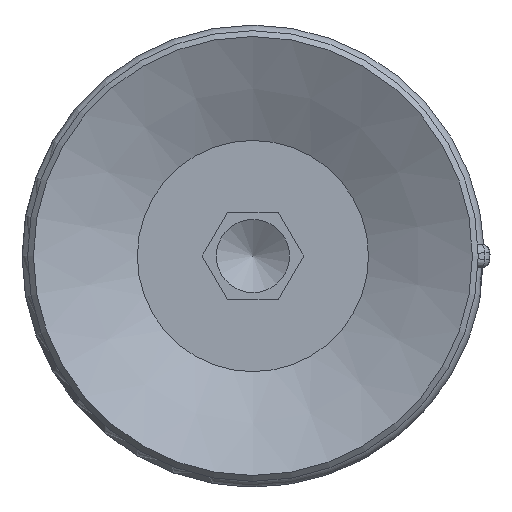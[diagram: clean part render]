
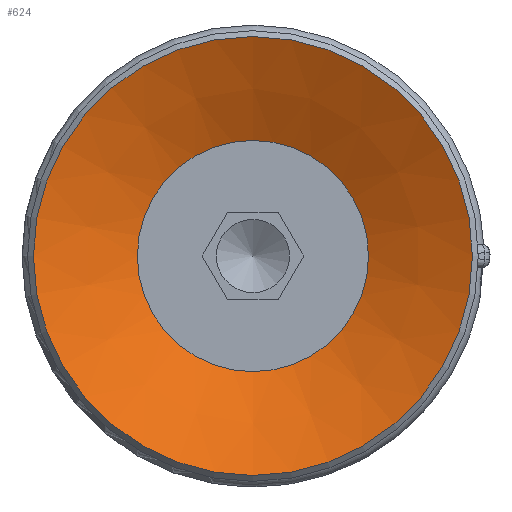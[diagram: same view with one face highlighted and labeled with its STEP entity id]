
A CAD part, front view. The second image highlights one B-rep face of the part: STEP entity #624.
In plain terms, the highlighted conical face has half-angle 64 degrees and reference radius 3.95 mm.
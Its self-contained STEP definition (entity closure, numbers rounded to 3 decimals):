
#624=ADVANCED_FACE('',(#946,#947),#948,.F.);
#946=FACE_BOUND('',#1455,.T.);
#947=FACE_OUTER_BOUND('',#1456,.T.);
#948=CONICAL_SURFACE('',#1457,3.95,1.117);
#1455=EDGE_LOOP('',(#2507));
#1456=EDGE_LOOP('',(#2508));
#1457=AXIS2_PLACEMENT_3D('',#2509,#2510,#2511);
#2507=ORIENTED_EDGE('',*,*,#3025,.F.);
#2508=ORIENTED_EDGE('',*,*,#2996,.T.);
#2509=CARTESIAN_POINT('',(0.0,-29.404,-47.168));
#2510=DIRECTION('',(-0.0,0.,1.0));
#2511=DIRECTION('',(0.0,-1.0,0.));
#2996=EDGE_CURVE('',#3394,#3394,#3395,.T.);
#3025=EDGE_CURVE('',#3440,#3440,#3441,.T.);
#3394=VERTEX_POINT('',#4436);
#3395=CIRCLE('',#4437,7.5);
#3440=VERTEX_POINT('',#4504);
#3441=CIRCLE('',#4505,3.95);
#4436=CARTESIAN_POINT('',(0.0,-36.904,-45.437));
#4437=AXIS2_PLACEMENT_3D('',#5220,#5221,#5222);
#4504=CARTESIAN_POINT('',(0.0,-33.354,-47.168));
#4505=AXIS2_PLACEMENT_3D('',#5292,#5293,#5294);
#5220=CARTESIAN_POINT('',(0.0,-29.404,-45.437));
#5221=DIRECTION('',(0.0,0.,1.0));
#5222=DIRECTION('',(0.0,-1.0,0.));
#5292=CARTESIAN_POINT('',(0.0,-29.404,-47.168));
#5293=DIRECTION('',(0.0,0.,1.0));
#5294=DIRECTION('',(0.0,-1.0,0.));
